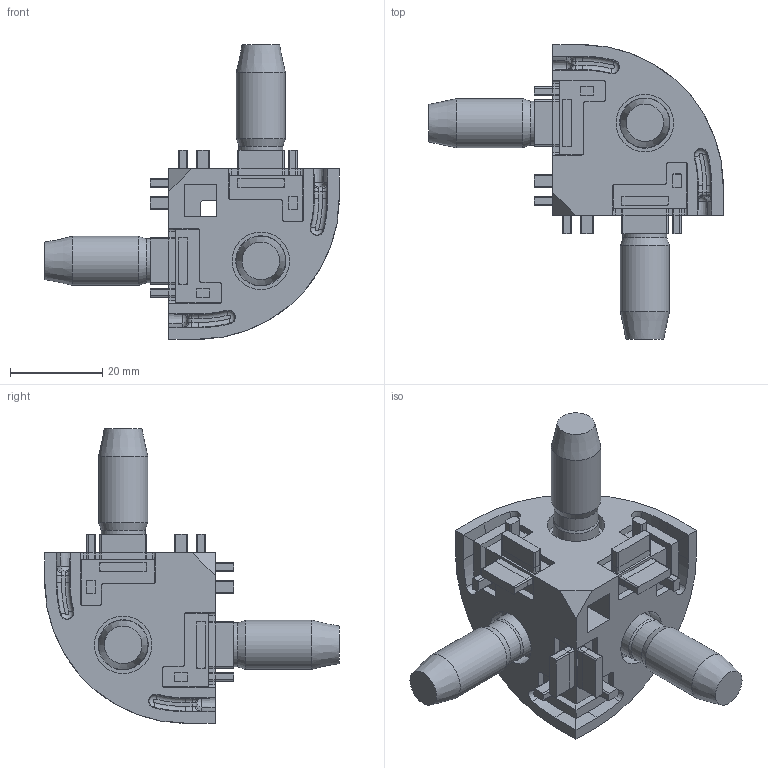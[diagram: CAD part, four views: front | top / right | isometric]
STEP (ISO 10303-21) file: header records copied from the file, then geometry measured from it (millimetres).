
FILE_DESCRIPTION (( 'STEP AP214' ), '1' );
FILE_NAME ('093WE405N10S02.STEP', '2015-09-17T08:28:10', ( 'Admin' ), ( 'Hewlett-Packard Company' ), 'SwSTEP 2.0', 'SolidWorks 2014', '' );
FILE_SCHEMA (( 'AUTOMOTIVE_DESIGN' ));
Length unit declared in the file: millimetre
Products named in the file (3): 093s1230t_093 s12 30; 093WE405N10_093WE405N10; 093WE405N10S02
Assembly tree (4 placements, depth 2):
  093WE405N10S02
    093WE405N10_093WE405N10
    093s1230t_093 s12 30  x3
Bounding box: 63.9 x 63.9 x 63.9 mm (x, y, z)
Volume: 23596.3 mm3; surface area: 14380.9 mm2
Topology: 4 solids, 4 shells, 594 faces, 1513 edges, 947 vertices
Faces by surface type: plane 318, cylinder 123, cone 105, torus 30, bspline 18
Full cylindrical faces by diameter (mm): 9.5 x3, 9.9 x3, 10.7 x3, 12.5 x3, 19.6 x3, 20 x3
Entity records: 13773 total; most frequent: CARTESIAN_POINT 2816, DIRECTION 2333, ORIENTED_EDGE 2226, EDGE_CURVE 1113, AXIS2_PLACEMENT_3D 829, VERTEX_POINT 694, VECTOR 675, LINE 675
